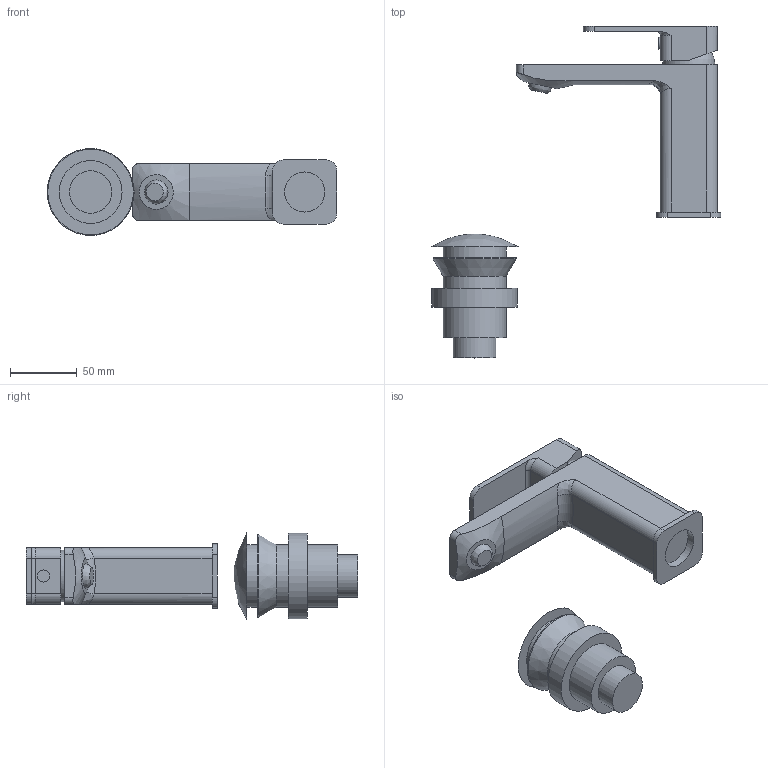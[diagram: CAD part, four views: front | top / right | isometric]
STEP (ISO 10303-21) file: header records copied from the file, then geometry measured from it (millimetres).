
FILE_DESCRIPTION(/* description */ ('LOFT Bateria umywalkowa stojąca ze spustem'),/* implementation_level */ '2;1');
FILE_NAME(/* name */ 'C:\Nextcloud\02_biblioteki_cad\Valvex\Projekt\PROJECTS\Eksport\ETAP 1\2454910\2454910.stp',/* time_stamp */ '2021-06-17T15:39:37+02:00',/* author */ ('Cadventure'),/* organization */ (''),/* preprocessor_version */ 'ST-DEVELOPER v18.1',/* originating_system */ 'Autodesk Inventor 2020',/* authorisation */ '');
FILE_SCHEMA (('AUTOMOTIVE_DESIGN { 1 0 10303 214 3 1 1 }'));
Length unit declared in the file: millimetre
Products named in the file (1): 2454910
Bounding box: 216.5 x 248 x 65 mm (x, y, z)
Volume: 506085.9 mm3; surface area: 72663.4 mm2
Topology: 3 solids, 3 shells, 67 faces, 168 edges, 116 vertices
Faces by surface type: plane 29, cylinder 26, bspline 5, torus 3, sphere 2, cone 2
Full cylindrical faces by diameter (mm): 9 x1, 30 x1, 31.75 x1, 47 x3, 62 x1, 64 x1
Entity records: 5844 total; most frequent: CARTESIAN_POINT 4155, DIRECTION 352, ORIENTED_EDGE 334, EDGE_CURVE 167, AXIS2_PLACEMENT_3D 137, VERTEX_POINT 116, LINE 78, VECTOR 78
